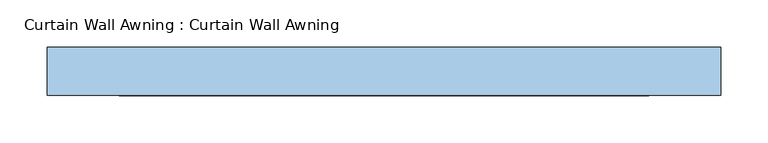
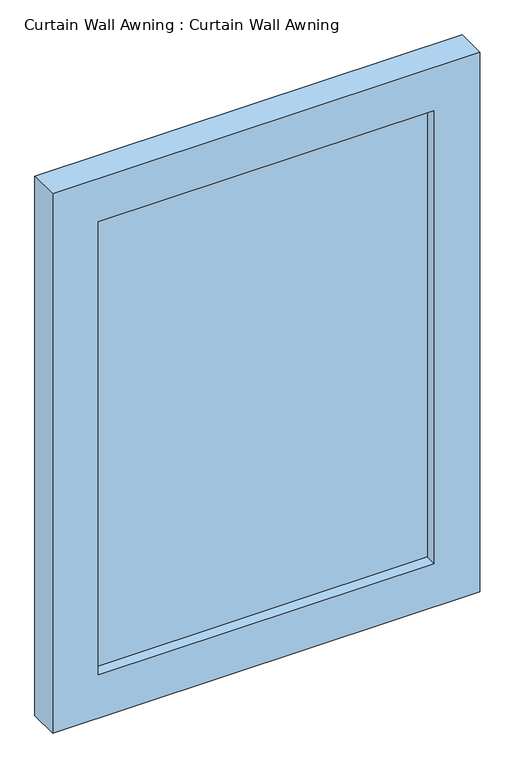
"""IFC4 building model written with IfcOpenShell, lengths in millimetres: window geometry, Curtain Wall Awning : Curtain Wall Awning."""

from ifc_helpers import new_model, si_unit, frame, origin, place, context, project, spatial, polyline, outline, extrude, source, transform, mapped, element, save


def curtain_wall_awning_curtain_wall_awning_8a8df056(model_context):
    return source(origin(), model_context, "Body", "SweptSolid", [
        extrude(outline(polyline([(279.675, 44.45), (-279.675, 44.45), (-279.675, 57.15), (279.675, 57.15), (279.675, 44.45)])), frame((0.0, 0.0, 76.2), z_axis=(0.0, 0.0, 1.0), x_axis=(1.0, 0.0, 0.0)), (0.0, 0.0, 1.0), 797.6),
        extrude(outline(polyline([(950.0, -355.875), (0.0, -355.875), (0.0, 355.875), (950.0, 355.875), (950.0, -355.875)]), holes=[polyline([(873.8, -279.675), (873.8, 279.675), (76.2, 279.675), (76.2, -279.675), (873.8, -279.675)])]), frame((0.0, 25.4, 0.0), z_axis=(0.0, 1.0, 0.0), x_axis=(0.0, 0.0, 1.0)), (0.0, 0.0, 1.0), 50.8),
    ])


if __name__ == "__main__":
    model = new_model("IFC4")
    model_context = context("Model", 3, world=origin())
    ifc_project = project(units=[si_unit("LENGTHUNIT", "METRE", prefix="MILLI")], contexts=[model_context])
    site = spatial("IfcSite", under=ifc_project)
    building = spatial("IfcBuilding", under=site)
    placement = place(None, origin())
    curtain_wall_awning_curtain_wall_awning_shape = curtain_wall_awning_curtain_wall_awning_8a8df056(model_context)
    element("IfcWindow", 1, ObjectType="Curtain Wall Awning : Curtain Wall Awning", at=placement, inside=building, context=model_context, shape_type="MappedRepresentation", body=[
        mapped(curtain_wall_awning_curtain_wall_awning_shape, transform((0.0, 0.0, 0.0), x_axis=(1.0, 0.0, 0.0), y_axis=(0.0, 1.0, 0.0), z_axis=(0.0, 0.0, 1.0))),
    ])
    save(model, "model.ifc")
